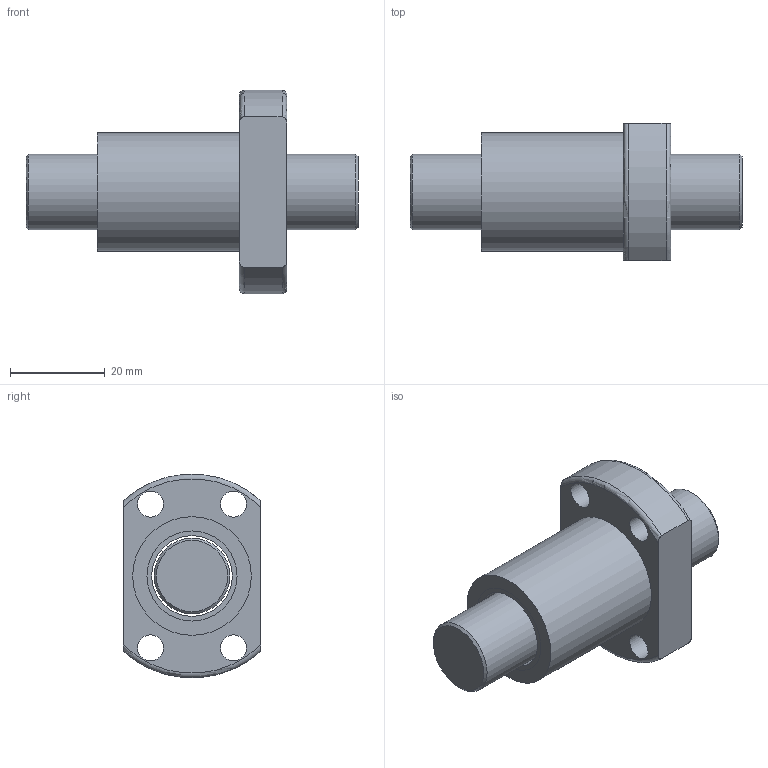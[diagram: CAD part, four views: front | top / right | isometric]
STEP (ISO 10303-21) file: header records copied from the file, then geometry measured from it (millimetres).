
FILE_DESCRIPTION(/* description */ (''),/* implementation_level */ '2;1');
FILE_NAME(/* name */ 'SFK1602',/* time_stamp */ '2007-10-26T10:42:02+08:00',/* author */ (''),/* organization */ (''),/* preprocessor_version */ 'ST-DEVELOPER v9',/* originating_system */ 'EDS PLM SOLUTIONS - UNIGRAPHICS NX 1.0',/* authorisation */ '');
FILE_SCHEMA (('CONFIG_CONTROL_DESIGN'));
Length unit declared in the file: millimetre
Products named in the file (1): FANNDA0400cg
Bounding box: 70 x 29 x 42.85 mm (x, y, z)
Volume: 30178 mm3; surface area: 13115.4 mm2
Topology: 4 solids, 4 shells, 34 faces, 71 edges, 48 vertices
Faces by surface type: cylinder 15, plane 13, torus 4, cone 2
Full cylindrical faces by diameter (mm): 5.5 x4, 16 x1, 17 x3, 19 x4, 25 x1
Entity records: 948 total; most frequent: CARTESIAN_POINT 171, DIRECTION 150, ORIENTED_EDGE 104, AXIS2_PLACEMENT_3D 71, EDGE_LOOP 66, EDGE_CURVE 52, FACE_BOUND 45, VERTEX_POINT 44
